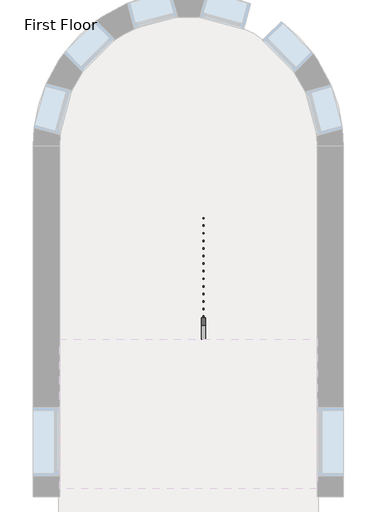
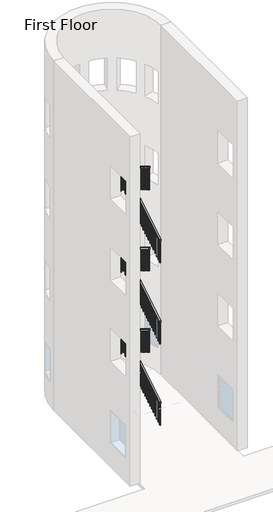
# One storey, part 4 of 5: 1 railing.
"""IFC4 building model written with IfcOpenShell, lengths in millimetres."""

from ifc_helpers import new_model, si_unit, frame, origin, place, context, project, spatial, polyline, outline, extrude, element, save

model = new_model("IFC4")

# Units and contexts
model_context = context("Model", 3, world=origin())
ifc_project = project(units=[si_unit("LENGTHUNIT", "METRE", prefix="MILLI")], contexts=[model_context])

# Site, building, storey
site = spatial("IfcSite", under=ifc_project)
building = spatial("IfcBuilding", under=site)
storey = spatial("IfcBuildingStorey", under=building, Name="First Floor", Elevation=0.0)

# Railing
placement = place(None, origin())
element("IfcRailing", 1, ObjectType="Handrail - Rectangular", at=placement, inside=storey, context=model_context, shape_type="SweptSolid", body=[
    extrude(outline(polyline([(7001.9758812, 7120.3318731), (7001.9758812, 7179.7333333), (9186.3758812, 8503.6121212), (9186.3758812, 8444.210661), (7001.9758812, 7120.3318731)])), frame((-6067.8149687, 0.0, 0.0), z_axis=(1.0, 0.0, 0.0), x_axis=(0.0, 1.0, 0.0)), (0.0, 0.0, 1.0), 50.8),
    extrude(outline(polyline([(-6017.0149687, 9237.1758812), (-6017.0149687, 9186.3758812), (-6409.1274687, 9186.3758812), (-6409.1274687, 9237.1758812), (-6017.0149687, 9237.1758812)])), frame((0.0, 0.0, 8483.6), z_axis=(0.0, 0.0, 1.0), x_axis=(1.0, 0.0, 0.0)), (0.0, 0.0, 1.0), 50.8),
    extrude(outline(polyline([(9237.1758812, 8703.7333333), (9237.1758812, 8644.3318731), (7001.9758812, 9998.9985397), (7001.9758812, 10058.4), (9237.1758812, 8703.7333333)])), frame((-6459.9274687, 0.0, 0.0), z_axis=(1.0, 0.0, 0.0), x_axis=(0.0, 1.0, 0.0)), (0.0, 0.0, 1.0), 50.8),
    extrude(outline(polyline([(7087.7008812, 9947.0439943), (7087.7008812, 9134.8266332), (7068.6508812, 9146.3720877), (7068.6508812, 9958.5894488), (7087.7008812, 9947.0439943)])), frame((-6444.0524687, 0.0, 0.0), z_axis=(1.0, 0.0, 0.0), x_axis=(0.0, 1.0, 0.0)), (0.0, 0.0, 1.0), 19.05),
    extrude(outline(polyline([(7189.3008812, 9885.4682367), (7189.3008812, 9073.2508756), (7170.2508812, 9084.7963301), (7170.2508812, 9897.0136913), (7189.3008812, 9885.4682367)])), frame((-6444.0524687, 0.0, 0.0), z_axis=(1.0, 0.0, 0.0), x_axis=(0.0, 1.0, 0.0)), (0.0, 0.0, 1.0), 19.05),
    extrude(outline(polyline([(7290.9008812, 9823.8924791), (7290.9008812, 9011.675118), (7271.8508812, 9023.2205726), (7271.8508812, 9835.4379337), (7290.9008812, 9823.8924791)])), frame((-6444.0524687, 0.0, 0.0), z_axis=(1.0, 0.0, 0.0), x_axis=(0.0, 1.0, 0.0)), (0.0, 0.0, 1.0), 19.05),
    extrude(outline(polyline([(7392.5008812, 9762.3167216), (7392.5008812, 8950.0993604), (7373.4508812, 8961.644815), (7373.4508812, 9773.8621761), (7392.5008812, 9762.3167216)])), frame((-6444.0524687, 0.0, 0.0), z_axis=(1.0, 0.0, 0.0), x_axis=(0.0, 1.0, 0.0)), (0.0, 0.0, 1.0), 19.05),
    extrude(outline(polyline([(7494.1008812, 9700.740964), (7494.1008812, 8888.5236029), (7475.0508812, 8900.0690574), (7475.0508812, 9712.2864185), (7494.1008812, 9700.740964)])), frame((-6444.0524687, 0.0, 0.0), z_axis=(1.0, 0.0, 0.0), x_axis=(0.0, 1.0, 0.0)), (0.0, 0.0, 1.0), 19.05),
    extrude(outline(polyline([(7595.7008812, 9639.1652064), (7595.7008812, 8826.9478453), (7576.6508812, 8838.4932998), (7576.6508812, 9650.710661), (7595.7008812, 9639.1652064)])), frame((-6444.0524687, 0.0, 0.0), z_axis=(1.0, 0.0, 0.0), x_axis=(0.0, 1.0, 0.0)), (0.0, 0.0, 1.0), 19.05),
    extrude(outline(polyline([(7697.3008812, 9577.5894488), (7697.3008812, 8765.3720877), (7678.2508812, 8776.9175423), (7678.2508812, 9589.1349034), (7697.3008812, 9577.5894488)])), frame((-6444.0524687, 0.0, 0.0), z_axis=(1.0, 0.0, 0.0), x_axis=(0.0, 1.0, 0.0)), (0.0, 0.0, 1.0), 19.05),
    extrude(outline(polyline([(7798.9008812, 9516.0136913), (7798.9008812, 8703.7963301), (7779.8508812, 8715.3417847), (7779.8508812, 9527.5591458), (7798.9008812, 9516.0136913)])), frame((-6444.0524687, 0.0, 0.0), z_axis=(1.0, 0.0, 0.0), x_axis=(0.0, 1.0, 0.0)), (0.0, 0.0, 1.0), 19.05),
    extrude(outline(polyline([(7900.5008812, 9454.4379337), (7900.5008812, 8642.2205726), (7881.4508812, 8653.7660271), (7881.4508812, 9465.9833882), (7900.5008812, 9454.4379337)])), frame((-6444.0524687, 0.0, 0.0), z_axis=(1.0, 0.0, 0.0), x_axis=(0.0, 1.0, 0.0)), (0.0, 0.0, 1.0), 19.05),
    extrude(outline(polyline([(8002.1008812, 9392.8621761), (8002.1008812, 8580.644815), (7983.0508812, 8592.1902695), (7983.0508812, 9404.4076307), (8002.1008812, 9392.8621761)])), frame((-6444.0524687, 0.0, 0.0), z_axis=(1.0, 0.0, 0.0), x_axis=(0.0, 1.0, 0.0)), (0.0, 0.0, 1.0), 19.05),
    extrude(outline(polyline([(8103.7008812, 9331.2864185), (8103.7008812, 8519.0690574), (8084.6508812, 8530.614512), (8084.6508812, 9342.8318731), (8103.7008812, 9331.2864185)])), frame((-6444.0524687, 0.0, 0.0), z_axis=(1.0, 0.0, 0.0), x_axis=(0.0, 1.0, 0.0)), (0.0, 0.0, 1.0), 19.05),
    extrude(outline(polyline([(8205.3008812, 9269.710661), (8205.3008812, 8457.4932998), (8186.2508812, 8469.0387544), (8186.2508812, 9281.2561155), (8205.3008812, 9269.710661)])), frame((-6444.0524687, 0.0, 0.0), z_axis=(1.0, 0.0, 0.0), x_axis=(0.0, 1.0, 0.0)), (0.0, 0.0, 1.0), 19.05),
    extrude(outline(polyline([(8306.9008812, 9208.1349034), (8306.9008812, 8395.9175423), (8287.8508812, 8407.4629968), (8287.8508812, 9219.6803579), (8306.9008812, 9208.1349034)])), frame((-6444.0524687, 0.0, 0.0), z_axis=(1.0, 0.0, 0.0), x_axis=(0.0, 1.0, 0.0)), (0.0, 0.0, 1.0), 19.05),
    extrude(outline(polyline([(8408.5008812, 9146.5591458), (8408.5008812, 8334.3417847), (8389.4508812, 8345.8872392), (8389.4508812, 9158.1046004), (8408.5008812, 9146.5591458)])), frame((-6444.0524687, 0.0, 0.0), z_axis=(1.0, 0.0, 0.0), x_axis=(0.0, 1.0, 0.0)), (0.0, 0.0, 1.0), 19.05),
    extrude(outline(polyline([(8510.1008812, 9084.9833882), (8510.1008812, 8272.7660271), (8491.0508812, 8284.3114817), (8491.0508812, 9096.5288428), (8510.1008812, 9084.9833882)])), frame((-6444.0524687, 0.0, 0.0), z_axis=(1.0, 0.0, 0.0), x_axis=(0.0, 1.0, 0.0)), (0.0, 0.0, 1.0), 19.05),
    extrude(outline(polyline([(8611.7008812, 9023.4076307), (8611.7008812, 8211.1902695), (8592.6508812, 8222.7357241), (8592.6508812, 9034.9530852), (8611.7008812, 9023.4076307)])), frame((-6444.0524687, 0.0, 0.0), z_axis=(1.0, 0.0, 0.0), x_axis=(0.0, 1.0, 0.0)), (0.0, 0.0, 1.0), 19.05),
    extrude(outline(polyline([(8713.3008812, 8961.8318731), (8713.3008812, 8149.614512), (8694.2508812, 8161.1599665), (8694.2508812, 8973.3773276), (8713.3008812, 8961.8318731)])), frame((-6444.0524687, 0.0, 0.0), z_axis=(1.0, 0.0, 0.0), x_axis=(0.0, 1.0, 0.0)), (0.0, 0.0, 1.0), 19.05),
    extrude(outline(polyline([(8814.9008812, 8900.2561155), (8814.9008812, 8088.0387544), (8795.8508812, 8099.5842089), (8795.8508812, 8911.80157), (8814.9008812, 8900.2561155)])), frame((-6444.0524687, 0.0, 0.0), z_axis=(1.0, 0.0, 0.0), x_axis=(0.0, 1.0, 0.0)), (0.0, 0.0, 1.0), 19.05),
    extrude(outline(polyline([(8916.5008812, 8838.6803579), (8916.5008812, 8026.4629968), (8897.4508812, 8038.0084514), (8897.4508812, 8850.2258125), (8916.5008812, 8838.6803579)])), frame((-6444.0524687, 0.0, 0.0), z_axis=(1.0, 0.0, 0.0), x_axis=(0.0, 1.0, 0.0)), (0.0, 0.0, 1.0), 19.05),
    extrude(outline(polyline([(9018.1008812, 8777.1046004), (9018.1008812, 7964.8872392), (8999.0508812, 7976.4326938), (8999.0508812, 8788.6500549), (9018.1008812, 8777.1046004)])), frame((-6444.0524687, 0.0, 0.0), z_axis=(1.0, 0.0, 0.0), x_axis=(0.0, 1.0, 0.0)), (0.0, 0.0, 1.0), 19.05),
    extrude(outline(polyline([(9119.7008812, 8715.5288428), (9119.7008812, 7903.3114817), (9100.6508812, 7914.8569362), (9100.6508812, 8727.0742973), (9119.7008812, 8715.5288428)])), frame((-6444.0524687, 0.0, 0.0), z_axis=(1.0, 0.0, 0.0), x_axis=(0.0, 1.0, 0.0)), (0.0, 0.0, 1.0), 19.05),
    extrude(outline(polyline([(-6337.6899687, 9202.2508812), (-6356.7399687, 9202.2508812), (-6356.7399687, 9221.3008812), (-6337.6899687, 9221.3008812), (-6337.6899687, 9202.2508812)])), frame((0.0, 0.0, 7696.2), z_axis=(0.0, 0.0, 1.0), x_axis=(1.0, 0.0, 0.0)), (0.0, 0.0, 1.0), 787.4),
    extrude(outline(polyline([(-6236.0899687, 9202.2508812), (-6255.1399687, 9202.2508812), (-6255.1399687, 9221.3008812), (-6236.0899687, 9221.3008812), (-6236.0899687, 9202.2508812)])), frame((0.0, 0.0, 7696.2), z_axis=(0.0, 0.0, 1.0), x_axis=(1.0, 0.0, 0.0)), (0.0, 0.0, 1.0), 787.4),
    extrude(outline(polyline([(-6134.4899687, 9202.2508812), (-6153.5399687, 9202.2508812), (-6153.5399687, 9221.3008812), (-6134.4899687, 9221.3008812), (-6134.4899687, 9202.2508812)])), frame((0.0, 0.0, 7696.2), z_axis=(0.0, 0.0, 1.0), x_axis=(1.0, 0.0, 0.0)), (0.0, 0.0, 1.0), 787.4),
    extrude(outline(polyline([(9145.1008812, 8419.1955094), (9145.1008812, 7606.9781483), (9126.0508812, 7595.4326938), (9126.0508812, 8407.6500549), (9145.1008812, 8419.1955094)])), frame((-6051.9399687, 0.0, 0.0), z_axis=(1.0, 0.0, 0.0), x_axis=(0.0, 1.0, 0.0)), (0.0, 0.0, 1.0), 19.05),
    extrude(outline(polyline([(9043.5008812, 8357.6197519), (9043.5008812, 7545.4023907), (9024.4508812, 7533.8569362), (9024.4508812, 8346.0742973), (9043.5008812, 8357.6197519)])), frame((-6051.9399687, 0.0, 0.0), z_axis=(1.0, 0.0, 0.0), x_axis=(0.0, 1.0, 0.0)), (0.0, 0.0, 1.0), 19.05),
    extrude(outline(polyline([(8941.9008812, 8296.0439943), (8941.9008812, 7483.8266332), (8922.8508812, 7472.2811786), (8922.8508812, 8284.4985397), (8941.9008812, 8296.0439943)])), frame((-6051.9399687, 0.0, 0.0), z_axis=(1.0, 0.0, 0.0), x_axis=(0.0, 1.0, 0.0)), (0.0, 0.0, 1.0), 19.05),
    extrude(outline(polyline([(8840.3008812, 8234.4682367), (8840.3008812, 7422.2508756), (8821.2508812, 7410.7054211), (8821.2508812, 8222.9227822), (8840.3008812, 8234.4682367)])), frame((-6051.9399687, 0.0, 0.0), z_axis=(1.0, 0.0, 0.0), x_axis=(0.0, 1.0, 0.0)), (0.0, 0.0, 1.0), 19.05),
    extrude(outline(polyline([(8738.7008812, 8172.8924791), (8738.7008812, 7360.675118), (8719.6508812, 7349.1296635), (8719.6508812, 8161.3470246), (8738.7008812, 8172.8924791)])), frame((-6051.9399687, 0.0, 0.0), z_axis=(1.0, 0.0, 0.0), x_axis=(0.0, 1.0, 0.0)), (0.0, 0.0, 1.0), 19.05),
    extrude(outline(polyline([(8637.1008812, 8111.3167216), (8637.1008812, 7299.0993604), (8618.0508812, 7287.5539059), (8618.0508812, 8099.771267), (8637.1008812, 8111.3167216)])), frame((-6051.9399687, 0.0, 0.0), z_axis=(1.0, 0.0, 0.0), x_axis=(0.0, 1.0, 0.0)), (0.0, 0.0, 1.0), 19.05),
    extrude(outline(polyline([(8535.5008812, 8049.740964), (8535.5008812, 7237.5236029), (8516.4508812, 7225.9781483), (8516.4508812, 8038.1955094), (8535.5008812, 8049.740964)])), frame((-6051.9399687, 0.0, 0.0), z_axis=(1.0, 0.0, 0.0), x_axis=(0.0, 1.0, 0.0)), (0.0, 0.0, 1.0), 19.05),
    extrude(outline(polyline([(8433.9008812, 7988.1652064), (8433.9008812, 7175.9478453), (8414.8508812, 7164.4023907), (8414.8508812, 7976.6197519), (8433.9008812, 7988.1652064)])), frame((-6051.9399687, 0.0, 0.0), z_axis=(1.0, 0.0, 0.0), x_axis=(0.0, 1.0, 0.0)), (0.0, 0.0, 1.0), 19.05),
    extrude(outline(polyline([(8332.3008812, 7926.5894488), (8332.3008812, 7114.3720877), (8313.2508812, 7102.8266332), (8313.2508812, 7915.0439943), (8332.3008812, 7926.5894488)])), frame((-6051.9399687, 0.0, 0.0), z_axis=(1.0, 0.0, 0.0), x_axis=(0.0, 1.0, 0.0)), (0.0, 0.0, 1.0), 19.05),
    extrude(outline(polyline([(8230.7008812, 7865.0136913), (8230.7008812, 7052.7963301), (8211.6508812, 7041.2508756), (8211.6508812, 7853.4682367), (8230.7008812, 7865.0136913)])), frame((-6051.9399687, 0.0, 0.0), z_axis=(1.0, 0.0, 0.0), x_axis=(0.0, 1.0, 0.0)), (0.0, 0.0, 1.0), 19.05),
    extrude(outline(polyline([(8129.1008812, 7803.4379337), (8129.1008812, 6991.2205726), (8110.0508812, 6979.675118), (8110.0508812, 7791.8924791), (8129.1008812, 7803.4379337)])), frame((-6051.9399687, 0.0, 0.0), z_axis=(1.0, 0.0, 0.0), x_axis=(0.0, 1.0, 0.0)), (0.0, 0.0, 1.0), 19.05),
    extrude(outline(polyline([(8027.5008812, 7741.8621761), (8027.5008812, 6929.644815), (8008.4508812, 6918.0993604), (8008.4508812, 7730.3167216), (8027.5008812, 7741.8621761)])), frame((-6051.9399687, 0.0, 0.0), z_axis=(1.0, 0.0, 0.0), x_axis=(0.0, 1.0, 0.0)), (0.0, 0.0, 1.0), 19.05),
    extrude(outline(polyline([(7925.9008812, 7680.2864185), (7925.9008812, 6868.0690574), (7906.8508812, 6856.5236029), (7906.8508812, 7668.740964), (7925.9008812, 7680.2864185)])), frame((-6051.9399687, 0.0, 0.0), z_axis=(1.0, 0.0, 0.0), x_axis=(0.0, 1.0, 0.0)), (0.0, 0.0, 1.0), 19.05),
    extrude(outline(polyline([(7824.3008812, 7618.710661), (7824.3008812, 6806.4932998), (7805.2508812, 6794.9478453), (7805.2508812, 7607.1652064), (7824.3008812, 7618.710661)])), frame((-6051.9399687, 0.0, 0.0), z_axis=(1.0, 0.0, 0.0), x_axis=(0.0, 1.0, 0.0)), (0.0, 0.0, 1.0), 19.05),
    extrude(outline(polyline([(7722.7008812, 7557.1349034), (7722.7008812, 6744.9175423), (7703.6508812, 6733.3720877), (7703.6508812, 7545.5894488), (7722.7008812, 7557.1349034)])), frame((-6051.9399687, 0.0, 0.0), z_axis=(1.0, 0.0, 0.0), x_axis=(0.0, 1.0, 0.0)), (0.0, 0.0, 1.0), 19.05),
    extrude(outline(polyline([(7621.1008812, 7495.5591458), (7621.1008812, 6683.3417847), (7602.0508812, 6671.7963301), (7602.0508812, 7484.0136913), (7621.1008812, 7495.5591458)])), frame((-6051.9399687, 0.0, 0.0), z_axis=(1.0, 0.0, 0.0), x_axis=(0.0, 1.0, 0.0)), (0.0, 0.0, 1.0), 19.05),
    extrude(outline(polyline([(7519.5008812, 7433.9833882), (7519.5008812, 6621.7660271), (7500.4508812, 6610.2205726), (7500.4508812, 7422.4379337), (7519.5008812, 7433.9833882)])), frame((-6051.9399687, 0.0, 0.0), z_axis=(1.0, 0.0, 0.0), x_axis=(0.0, 1.0, 0.0)), (0.0, 0.0, 1.0), 19.05),
    extrude(outline(polyline([(7417.9008812, 7372.4076307), (7417.9008812, 6560.1902695), (7398.8508812, 6548.644815), (7398.8508812, 7360.8621761), (7417.9008812, 7372.4076307)])), frame((-6051.9399687, 0.0, 0.0), z_axis=(1.0, 0.0, 0.0), x_axis=(0.0, 1.0, 0.0)), (0.0, 0.0, 1.0), 19.05),
    extrude(outline(polyline([(7316.3008812, 7310.8318731), (7316.3008812, 6498.614512), (7297.2508812, 6487.0690574), (7297.2508812, 7299.2864185), (7316.3008812, 7310.8318731)])), frame((-6051.9399687, 0.0, 0.0), z_axis=(1.0, 0.0, 0.0), x_axis=(0.0, 1.0, 0.0)), (0.0, 0.0, 1.0), 19.05),
    extrude(outline(polyline([(7214.7008812, 7249.2561155), (7214.7008812, 6437.0387544), (7195.6508812, 6425.4932998), (7195.6508812, 7237.710661), (7214.7008812, 7249.2561155)])), frame((-6051.9399687, 0.0, 0.0), z_axis=(1.0, 0.0, 0.0), x_axis=(0.0, 1.0, 0.0)), (0.0, 0.0, 1.0), 19.05),
    extrude(outline(polyline([(7113.1008812, 7187.6803579), (7113.1008812, 6375.4629968), (7094.0508812, 6363.9175423), (7094.0508812, 7176.1349034), (7113.1008812, 7187.6803579)])), frame((-6051.9399687, 0.0, 0.0), z_axis=(1.0, 0.0, 0.0), x_axis=(0.0, 1.0, 0.0)), (0.0, 0.0, 1.0), 19.05),
    extrude(outline(polyline([(9221.3008812, 8653.9530852), (9221.3008812, 7841.7357241), (9202.2508812, 7853.2811786), (9202.2508812, 8665.4985397), (9221.3008812, 8653.9530852)])), frame((-6444.0524687, 0.0, 0.0), z_axis=(1.0, 0.0, 0.0), x_axis=(0.0, 1.0, 0.0)), (0.0, 0.0, 1.0), 19.05),
    extrude(outline(polyline([(-6032.8899687, 9202.2508812), (-6051.9399687, 9202.2508812), (-6051.9399687, 9221.3008812), (-6032.8899687, 9221.3008812), (-6032.8899687, 9202.2508812)])), frame((0.0, 0.0, 7696.2), z_axis=(0.0, 0.0, 1.0), x_axis=(1.0, 0.0, 0.0)), (0.0, 0.0, 1.0), 787.4),
    extrude(outline(polyline([(7021.0258812, 9987.4530852), (7021.0258812, 9175.2357241), (7001.9758812, 9186.7811786), (7001.9758812, 9998.9985397), (7021.0258812, 9987.4530852)])), frame((-6444.0524687, 0.0, 0.0), z_axis=(1.0, 0.0, 0.0), x_axis=(0.0, 1.0, 0.0)), (0.0, 0.0, 1.0), 19.05),
    extrude(outline(polyline([(7021.0258812, 7131.8773276), (7021.0258812, 6319.6599665), (7001.9758812, 6308.114512), (7001.9758812, 7120.3318731), (7021.0258812, 7131.8773276)])), frame((-6051.9399687, 0.0, 0.0), z_axis=(1.0, 0.0, 0.0), x_axis=(0.0, 1.0, 0.0)), (0.0, 0.0, 1.0), 19.05),
    extrude(outline(polyline([(7001.9758812, 4072.3318731), (7001.9758812, 4131.7333333), (9186.3758812, 5455.6121212), (9186.3758812, 5396.210661), (7001.9758812, 4072.3318731)])), frame((-6067.8149687, 0.0, 0.0), z_axis=(1.0, 0.0, 0.0), x_axis=(0.0, 1.0, 0.0)), (0.0, 0.0, 1.0), 50.8),
    extrude(outline(polyline([(-6017.0149687, 9237.1758812), (-6017.0149687, 9186.3758812), (-6409.1274687, 9186.3758812), (-6409.1274687, 9237.1758812), (-6017.0149687, 9237.1758812)])), frame((0.0, 0.0, 5435.6), z_axis=(0.0, 0.0, 1.0), x_axis=(1.0, 0.0, 0.0)), (0.0, 0.0, 1.0), 50.8),
    extrude(outline(polyline([(9237.1758812, 5655.7333333), (9237.1758812, 5596.3318731), (7001.9758812, 6950.9985397), (7001.9758812, 7010.4), (9237.1758812, 5655.7333333)])), frame((-6459.9274687, 0.0, 0.0), z_axis=(1.0, 0.0, 0.0), x_axis=(0.0, 1.0, 0.0)), (0.0, 0.0, 1.0), 50.8),
    extrude(outline(polyline([(7087.7008812, 6899.0439943), (7087.7008812, 6086.8266332), (7068.6508812, 6098.3720877), (7068.6508812, 6910.5894488), (7087.7008812, 6899.0439943)])), frame((-6444.0524687, 0.0, 0.0), z_axis=(1.0, 0.0, 0.0), x_axis=(0.0, 1.0, 0.0)), (0.0, 0.0, 1.0), 19.05),
    extrude(outline(polyline([(7189.3008812, 6837.4682367), (7189.3008812, 6025.2508756), (7170.2508812, 6036.7963301), (7170.2508812, 6849.0136913), (7189.3008812, 6837.4682367)])), frame((-6444.0524687, 0.0, 0.0), z_axis=(1.0, 0.0, 0.0), x_axis=(0.0, 1.0, 0.0)), (0.0, 0.0, 1.0), 19.05),
    extrude(outline(polyline([(7290.9008812, 6775.8924791), (7290.9008812, 5963.675118), (7271.8508812, 5975.2205726), (7271.8508812, 6787.4379337), (7290.9008812, 6775.8924791)])), frame((-6444.0524687, 0.0, 0.0), z_axis=(1.0, 0.0, 0.0), x_axis=(0.0, 1.0, 0.0)), (0.0, 0.0, 1.0), 19.05),
    extrude(outline(polyline([(7392.5008812, 6714.3167216), (7392.5008812, 5902.0993604), (7373.4508812, 5913.644815), (7373.4508812, 6725.8621761), (7392.5008812, 6714.3167216)])), frame((-6444.0524687, 0.0, 0.0), z_axis=(1.0, 0.0, 0.0), x_axis=(0.0, 1.0, 0.0)), (0.0, 0.0, 1.0), 19.05),
    extrude(outline(polyline([(7494.1008812, 6652.740964), (7494.1008812, 5840.5236029), (7475.0508812, 5852.0690574), (7475.0508812, 6664.2864185), (7494.1008812, 6652.740964)])), frame((-6444.0524687, 0.0, 0.0), z_axis=(1.0, 0.0, 0.0), x_axis=(0.0, 1.0, 0.0)), (0.0, 0.0, 1.0), 19.05),
    extrude(outline(polyline([(7595.7008812, 6591.1652064), (7595.7008812, 5778.9478453), (7576.6508812, 5790.4932998), (7576.6508812, 6602.710661), (7595.7008812, 6591.1652064)])), frame((-6444.0524687, 0.0, 0.0), z_axis=(1.0, 0.0, 0.0), x_axis=(0.0, 1.0, 0.0)), (0.0, 0.0, 1.0), 19.05),
    extrude(outline(polyline([(7697.3008812, 6529.5894488), (7697.3008812, 5717.3720877), (7678.2508812, 5728.9175423), (7678.2508812, 6541.1349034), (7697.3008812, 6529.5894488)])), frame((-6444.0524687, 0.0, 0.0), z_axis=(1.0, 0.0, 0.0), x_axis=(0.0, 1.0, 0.0)), (0.0, 0.0, 1.0), 19.05),
    extrude(outline(polyline([(7798.9008812, 6468.0136913), (7798.9008812, 5655.7963301), (7779.8508812, 5667.3417847), (7779.8508812, 6479.5591458), (7798.9008812, 6468.0136913)])), frame((-6444.0524687, 0.0, 0.0), z_axis=(1.0, 0.0, 0.0), x_axis=(0.0, 1.0, 0.0)), (0.0, 0.0, 1.0), 19.05),
    extrude(outline(polyline([(7900.5008812, 6406.4379337), (7900.5008812, 5594.2205726), (7881.4508812, 5605.7660271), (7881.4508812, 6417.9833882), (7900.5008812, 6406.4379337)])), frame((-6444.0524687, 0.0, 0.0), z_axis=(1.0, 0.0, 0.0), x_axis=(0.0, 1.0, 0.0)), (0.0, 0.0, 1.0), 19.05),
    extrude(outline(polyline([(8002.1008812, 6344.8621761), (8002.1008812, 5532.644815), (7983.0508812, 5544.1902695), (7983.0508812, 6356.4076307), (8002.1008812, 6344.8621761)])), frame((-6444.0524687, 0.0, 0.0), z_axis=(1.0, 0.0, 0.0), x_axis=(0.0, 1.0, 0.0)), (0.0, 0.0, 1.0), 19.05),
    extrude(outline(polyline([(8103.7008812, 6283.2864185), (8103.7008812, 5471.0690574), (8084.6508812, 5482.614512), (8084.6508812, 6294.8318731), (8103.7008812, 6283.2864185)])), frame((-6444.0524687, 0.0, 0.0), z_axis=(1.0, 0.0, 0.0), x_axis=(0.0, 1.0, 0.0)), (0.0, 0.0, 1.0), 19.05),
    extrude(outline(polyline([(8205.3008812, 6221.710661), (8205.3008812, 5409.4932998), (8186.2508812, 5421.0387544), (8186.2508812, 6233.2561155), (8205.3008812, 6221.710661)])), frame((-6444.0524687, 0.0, 0.0), z_axis=(1.0, 0.0, 0.0), x_axis=(0.0, 1.0, 0.0)), (0.0, 0.0, 1.0), 19.05),
    extrude(outline(polyline([(8306.9008812, 6160.1349034), (8306.9008812, 5347.9175423), (8287.8508812, 5359.4629968), (8287.8508812, 6171.6803579), (8306.9008812, 6160.1349034)])), frame((-6444.0524687, 0.0, 0.0), z_axis=(1.0, 0.0, 0.0), x_axis=(0.0, 1.0, 0.0)), (0.0, 0.0, 1.0), 19.05),
    extrude(outline(polyline([(8408.5008812, 6098.5591458), (8408.5008812, 5286.3417847), (8389.4508812, 5297.8872392), (8389.4508812, 6110.1046004), (8408.5008812, 6098.5591458)])), frame((-6444.0524687, 0.0, 0.0), z_axis=(1.0, 0.0, 0.0), x_axis=(0.0, 1.0, 0.0)), (0.0, 0.0, 1.0), 19.05),
    extrude(outline(polyline([(8510.1008812, 6036.9833882), (8510.1008812, 5224.7660271), (8491.0508812, 5236.3114817), (8491.0508812, 6048.5288428), (8510.1008812, 6036.9833882)])), frame((-6444.0524687, 0.0, 0.0), z_axis=(1.0, 0.0, 0.0), x_axis=(0.0, 1.0, 0.0)), (0.0, 0.0, 1.0), 19.05),
    extrude(outline(polyline([(8611.7008812, 5975.4076307), (8611.7008812, 5163.1902695), (8592.6508812, 5174.7357241), (8592.6508812, 5986.9530852), (8611.7008812, 5975.4076307)])), frame((-6444.0524687, 0.0, 0.0), z_axis=(1.0, 0.0, 0.0), x_axis=(0.0, 1.0, 0.0)), (0.0, 0.0, 1.0), 19.05),
    extrude(outline(polyline([(8713.3008812, 5913.8318731), (8713.3008812, 5101.614512), (8694.2508812, 5113.1599665), (8694.2508812, 5925.3773276), (8713.3008812, 5913.8318731)])), frame((-6444.0524687, 0.0, 0.0), z_axis=(1.0, 0.0, 0.0), x_axis=(0.0, 1.0, 0.0)), (0.0, 0.0, 1.0), 19.05),
    extrude(outline(polyline([(8814.9008812, 5852.2561155), (8814.9008812, 5040.0387544), (8795.8508812, 5051.5842089), (8795.8508812, 5863.80157), (8814.9008812, 5852.2561155)])), frame((-6444.0524687, 0.0, 0.0), z_axis=(1.0, 0.0, 0.0), x_axis=(0.0, 1.0, 0.0)), (0.0, 0.0, 1.0), 19.05),
    extrude(outline(polyline([(8916.5008812, 5790.6803579), (8916.5008812, 4978.4629968), (8897.4508812, 4990.0084514), (8897.4508812, 5802.2258125), (8916.5008812, 5790.6803579)])), frame((-6444.0524687, 0.0, 0.0), z_axis=(1.0, 0.0, 0.0), x_axis=(0.0, 1.0, 0.0)), (0.0, 0.0, 1.0), 19.05),
    extrude(outline(polyline([(9018.1008812, 5729.1046004), (9018.1008812, 4916.8872392), (8999.0508812, 4928.4326938), (8999.0508812, 5740.6500549), (9018.1008812, 5729.1046004)])), frame((-6444.0524687, 0.0, 0.0), z_axis=(1.0, 0.0, 0.0), x_axis=(0.0, 1.0, 0.0)), (0.0, 0.0, 1.0), 19.05),
    extrude(outline(polyline([(9119.7008812, 5667.5288428), (9119.7008812, 4855.3114817), (9100.6508812, 4866.8569362), (9100.6508812, 5679.0742973), (9119.7008812, 5667.5288428)])), frame((-6444.0524687, 0.0, 0.0), z_axis=(1.0, 0.0, 0.0), x_axis=(0.0, 1.0, 0.0)), (0.0, 0.0, 1.0), 19.05),
    extrude(outline(polyline([(-6337.6899687, 9202.2508812), (-6356.7399687, 9202.2508812), (-6356.7399687, 9221.3008812), (-6337.6899687, 9221.3008812), (-6337.6899687, 9202.2508812)])), frame((0.0, 0.0, 4648.2), z_axis=(0.0, 0.0, 1.0), x_axis=(1.0, 0.0, 0.0)), (0.0, 0.0, 1.0), 787.4),
    extrude(outline(polyline([(-6236.0899687, 9202.2508812), (-6255.1399687, 9202.2508812), (-6255.1399687, 9221.3008812), (-6236.0899687, 9221.3008812), (-6236.0899687, 9202.2508812)])), frame((0.0, 0.0, 4648.2), z_axis=(0.0, 0.0, 1.0), x_axis=(1.0, 0.0, 0.0)), (0.0, 0.0, 1.0), 787.4),
    extrude(outline(polyline([(-6134.4899687, 9202.2508812), (-6153.5399687, 9202.2508812), (-6153.5399687, 9221.3008812), (-6134.4899687, 9221.3008812), (-6134.4899687, 9202.2508812)])), frame((0.0, 0.0, 4648.2), z_axis=(0.0, 0.0, 1.0), x_axis=(1.0, 0.0, 0.0)), (0.0, 0.0, 1.0), 787.4),
    extrude(outline(polyline([(9145.1008812, 5371.1955094), (9145.1008812, 4558.9781483), (9126.0508812, 4547.4326938), (9126.0508812, 5359.6500549), (9145.1008812, 5371.1955094)])), frame((-6051.9399687, 0.0, 0.0), z_axis=(1.0, 0.0, 0.0), x_axis=(0.0, 1.0, 0.0)), (0.0, 0.0, 1.0), 19.05),
    extrude(outline(polyline([(9043.5008812, 5309.6197519), (9043.5008812, 4497.4023907), (9024.4508812, 4485.8569362), (9024.4508812, 5298.0742973), (9043.5008812, 5309.6197519)])), frame((-6051.9399687, 0.0, 0.0), z_axis=(1.0, 0.0, 0.0), x_axis=(0.0, 1.0, 0.0)), (0.0, 0.0, 1.0), 19.05),
    extrude(outline(polyline([(8941.9008812, 5248.0439943), (8941.9008812, 4435.8266332), (8922.8508812, 4424.2811786), (8922.8508812, 5236.4985397), (8941.9008812, 5248.0439943)])), frame((-6051.9399687, 0.0, 0.0), z_axis=(1.0, 0.0, 0.0), x_axis=(0.0, 1.0, 0.0)), (0.0, 0.0, 1.0), 19.05),
    extrude(outline(polyline([(8840.3008812, 5186.4682367), (8840.3008812, 4374.2508756), (8821.2508812, 4362.7054211), (8821.2508812, 5174.9227822), (8840.3008812, 5186.4682367)])), frame((-6051.9399687, 0.0, 0.0), z_axis=(1.0, 0.0, 0.0), x_axis=(0.0, 1.0, 0.0)), (0.0, 0.0, 1.0), 19.05),
    extrude(outline(polyline([(8738.7008812, 5124.8924791), (8738.7008812, 4312.675118), (8719.6508812, 4301.1296635), (8719.6508812, 5113.3470246), (8738.7008812, 5124.8924791)])), frame((-6051.9399687, 0.0, 0.0), z_axis=(1.0, 0.0, 0.0), x_axis=(0.0, 1.0, 0.0)), (0.0, 0.0, 1.0), 19.05),
    extrude(outline(polyline([(8637.1008812, 5063.3167216), (8637.1008812, 4251.0993604), (8618.0508812, 4239.5539059), (8618.0508812, 5051.771267), (8637.1008812, 5063.3167216)])), frame((-6051.9399687, 0.0, 0.0), z_axis=(1.0, 0.0, 0.0), x_axis=(0.0, 1.0, 0.0)), (0.0, 0.0, 1.0), 19.05),
    extrude(outline(polyline([(8535.5008812, 5001.740964), (8535.5008812, 4189.5236029), (8516.4508812, 4177.9781483), (8516.4508812, 4990.1955094), (8535.5008812, 5001.740964)])), frame((-6051.9399687, 0.0, 0.0), z_axis=(1.0, 0.0, 0.0), x_axis=(0.0, 1.0, 0.0)), (0.0, 0.0, 1.0), 19.05),
    extrude(outline(polyline([(8433.9008812, 4940.1652064), (8433.9008812, 4127.9478453), (8414.8508812, 4116.4023907), (8414.8508812, 4928.6197519), (8433.9008812, 4940.1652064)])), frame((-6051.9399687, 0.0, 0.0), z_axis=(1.0, 0.0, 0.0), x_axis=(0.0, 1.0, 0.0)), (0.0, 0.0, 1.0), 19.05),
    extrude(outline(polyline([(8332.3008812, 4878.5894488), (8332.3008812, 4066.3720877), (8313.2508812, 4054.8266332), (8313.2508812, 4867.0439943), (8332.3008812, 4878.5894488)])), frame((-6051.9399687, 0.0, 0.0), z_axis=(1.0, 0.0, 0.0), x_axis=(0.0, 1.0, 0.0)), (0.0, 0.0, 1.0), 19.05),
    extrude(outline(polyline([(8230.7008812, 4817.0136913), (8230.7008812, 4004.7963301), (8211.6508812, 3993.2508756), (8211.6508812, 4805.4682367), (8230.7008812, 4817.0136913)])), frame((-6051.9399687, 0.0, 0.0), z_axis=(1.0, 0.0, 0.0), x_axis=(0.0, 1.0, 0.0)), (0.0, 0.0, 1.0), 19.05),
    extrude(outline(polyline([(8129.1008812, 4755.4379337), (8129.1008812, 3943.2205726), (8110.0508812, 3931.675118), (8110.0508812, 4743.8924791), (8129.1008812, 4755.4379337)])), frame((-6051.9399687, 0.0, 0.0), z_axis=(1.0, 0.0, 0.0), x_axis=(0.0, 1.0, 0.0)), (0.0, 0.0, 1.0), 19.05),
    extrude(outline(polyline([(8027.5008812, 4693.8621761), (8027.5008812, 3881.644815), (8008.4508812, 3870.0993604), (8008.4508812, 4682.3167216), (8027.5008812, 4693.8621761)])), frame((-6051.9399687, 0.0, 0.0), z_axis=(1.0, 0.0, 0.0), x_axis=(0.0, 1.0, 0.0)), (0.0, 0.0, 1.0), 19.05),
    extrude(outline(polyline([(7925.9008812, 4632.2864185), (7925.9008812, 3820.0690574), (7906.8508812, 3808.5236029), (7906.8508812, 4620.740964), (7925.9008812, 4632.2864185)])), frame((-6051.9399687, 0.0, 0.0), z_axis=(1.0, 0.0, 0.0), x_axis=(0.0, 1.0, 0.0)), (0.0, 0.0, 1.0), 19.05),
    extrude(outline(polyline([(7824.3008812, 4570.710661), (7824.3008812, 3758.4932998), (7805.2508812, 3746.9478453), (7805.2508812, 4559.1652064), (7824.3008812, 4570.710661)])), frame((-6051.9399687, 0.0, 0.0), z_axis=(1.0, 0.0, 0.0), x_axis=(0.0, 1.0, 0.0)), (0.0, 0.0, 1.0), 19.05),
    extrude(outline(polyline([(7722.7008812, 4509.1349034), (7722.7008812, 3696.9175423), (7703.6508812, 3685.3720877), (7703.6508812, 4497.5894488), (7722.7008812, 4509.1349034)])), frame((-6051.9399687, 0.0, 0.0), z_axis=(1.0, 0.0, 0.0), x_axis=(0.0, 1.0, 0.0)), (0.0, 0.0, 1.0), 19.05),
    extrude(outline(polyline([(7621.1008812, 4447.5591458), (7621.1008812, 3635.3417847), (7602.0508812, 3623.7963301), (7602.0508812, 4436.0136913), (7621.1008812, 4447.5591458)])), frame((-6051.9399687, 0.0, 0.0), z_axis=(1.0, 0.0, 0.0), x_axis=(0.0, 1.0, 0.0)), (0.0, 0.0, 1.0), 19.05),
    extrude(outline(polyline([(7519.5008812, 4385.9833882), (7519.5008812, 3573.7660271), (7500.4508812, 3562.2205726), (7500.4508812, 4374.4379337), (7519.5008812, 4385.9833882)])), frame((-6051.9399687, 0.0, 0.0), z_axis=(1.0, 0.0, 0.0), x_axis=(0.0, 1.0, 0.0)), (0.0, 0.0, 1.0), 19.05),
    extrude(outline(polyline([(7417.9008812, 4324.4076307), (7417.9008812, 3512.1902695), (7398.8508812, 3500.644815), (7398.8508812, 4312.8621761), (7417.9008812, 4324.4076307)])), frame((-6051.9399687, 0.0, 0.0), z_axis=(1.0, 0.0, 0.0), x_axis=(0.0, 1.0, 0.0)), (0.0, 0.0, 1.0), 19.05),
    extrude(outline(polyline([(7316.3008812, 4262.8318731), (7316.3008812, 3450.614512), (7297.2508812, 3439.0690574), (7297.2508812, 4251.2864185), (7316.3008812, 4262.8318731)])), frame((-6051.9399687, 0.0, 0.0), z_axis=(1.0, 0.0, 0.0), x_axis=(0.0, 1.0, 0.0)), (0.0, 0.0, 1.0), 19.05),
    extrude(outline(polyline([(7214.7008812, 4201.2561155), (7214.7008812, 3389.0387544), (7195.6508812, 3377.4932998), (7195.6508812, 4189.710661), (7214.7008812, 4201.2561155)])), frame((-6051.9399687, 0.0, 0.0), z_axis=(1.0, 0.0, 0.0), x_axis=(0.0, 1.0, 0.0)), (0.0, 0.0, 1.0), 19.05),
    extrude(outline(polyline([(7113.1008812, 4139.6803579), (7113.1008812, 3327.4629968), (7094.0508812, 3315.9175423), (7094.0508812, 4128.1349034), (7113.1008812, 4139.6803579)])), frame((-6051.9399687, 0.0, 0.0), z_axis=(1.0, 0.0, 0.0), x_axis=(0.0, 1.0, 0.0)), (0.0, 0.0, 1.0), 19.05),
    extrude(outline(polyline([(9221.3008812, 5605.9530852), (9221.3008812, 4793.7357241), (9202.2508812, 4805.2811786), (9202.2508812, 5617.4985397), (9221.3008812, 5605.9530852)])), frame((-6444.0524687, 0.0, 0.0), z_axis=(1.0, 0.0, 0.0), x_axis=(0.0, 1.0, 0.0)), (0.0, 0.0, 1.0), 19.05),
    extrude(outline(polyline([(-6032.8899687, 9202.2508812), (-6051.9399687, 9202.2508812), (-6051.9399687, 9221.3008812), (-6032.8899687, 9221.3008812), (-6032.8899687, 9202.2508812)])), frame((0.0, 0.0, 4648.2), z_axis=(0.0, 0.0, 1.0), x_axis=(1.0, 0.0, 0.0)), (0.0, 0.0, 1.0), 787.4),
    extrude(outline(polyline([(7021.0258812, 6939.4530852), (7021.0258812, 6127.2357241), (7001.9758812, 6138.7811786), (7001.9758812, 6950.9985397), (7021.0258812, 6939.4530852)])), frame((-6444.0524687, 0.0, 0.0), z_axis=(1.0, 0.0, 0.0), x_axis=(0.0, 1.0, 0.0)), (0.0, 0.0, 1.0), 19.05),
    extrude(outline(polyline([(7021.0258812, 4083.8773276), (7021.0258812, 3271.6599665), (7001.9758812, 3260.114512), (7001.9758812, 4072.3318731), (7021.0258812, 4083.8773276)])), frame((-6051.9399687, 0.0, 0.0), z_axis=(1.0, 0.0, 0.0), x_axis=(0.0, 1.0, 0.0)), (0.0, 0.0, 1.0), 19.05),
    extrude(outline(polyline([(7001.9758812, 1024.3318731), (7001.9758812, 1083.7333333), (9186.3758812, 2407.6121212), (9186.3758812, 2348.210661), (7001.9758812, 1024.3318731)])), frame((-6067.8149687, 0.0, 0.0), z_axis=(1.0, 0.0, 0.0), x_axis=(0.0, 1.0, 0.0)), (0.0, 0.0, 1.0), 50.8),
    extrude(outline(polyline([(-6017.0149687, 9237.1758812), (-6017.0149687, 9186.3758812), (-6409.1274687, 9186.3758812), (-6409.1274687, 9237.1758812), (-6017.0149687, 9237.1758812)])), frame((0.0, 0.0, 2387.6), z_axis=(0.0, 0.0, 1.0), x_axis=(1.0, 0.0, 0.0)), (0.0, 0.0, 1.0), 50.8),
    extrude(outline(polyline([(9237.1758812, 2607.7333333), (9237.1758812, 2548.3318731), (7001.9758812, 3902.9985397), (7001.9758812, 3962.4), (9237.1758812, 2607.7333333)])), frame((-6459.9274687, 0.0, 0.0), z_axis=(1.0, 0.0, 0.0), x_axis=(0.0, 1.0, 0.0)), (0.0, 0.0, 1.0), 50.8),
    extrude(outline(polyline([(7087.7008812, 3851.0439943), (7087.7008812, 3038.8266332), (7068.6508812, 3050.3720877), (7068.6508812, 3862.5894488), (7087.7008812, 3851.0439943)])), frame((-6444.0524687, 0.0, 0.0), z_axis=(1.0, 0.0, 0.0), x_axis=(0.0, 1.0, 0.0)), (0.0, 0.0, 1.0), 19.05),
    extrude(outline(polyline([(7189.3008812, 3789.4682367), (7189.3008812, 2977.2508756), (7170.2508812, 2988.7963301), (7170.2508812, 3801.0136913), (7189.3008812, 3789.4682367)])), frame((-6444.0524687, 0.0, 0.0), z_axis=(1.0, 0.0, 0.0), x_axis=(0.0, 1.0, 0.0)), (0.0, 0.0, 1.0), 19.05),
    extrude(outline(polyline([(7290.9008812, 3727.8924791), (7290.9008812, 2915.675118), (7271.8508812, 2927.2205726), (7271.8508812, 3739.4379337), (7290.9008812, 3727.8924791)])), frame((-6444.0524687, 0.0, 0.0), z_axis=(1.0, 0.0, 0.0), x_axis=(0.0, 1.0, 0.0)), (0.0, 0.0, 1.0), 19.05),
    extrude(outline(polyline([(7392.5008812, 3666.3167216), (7392.5008812, 2854.0993604), (7373.4508812, 2865.644815), (7373.4508812, 3677.8621761), (7392.5008812, 3666.3167216)])), frame((-6444.0524687, 0.0, 0.0), z_axis=(1.0, 0.0, 0.0), x_axis=(0.0, 1.0, 0.0)), (0.0, 0.0, 1.0), 19.05),
    extrude(outline(polyline([(7494.1008812, 3604.740964), (7494.1008812, 2792.5236029), (7475.0508812, 2804.0690574), (7475.0508812, 3616.2864185), (7494.1008812, 3604.740964)])), frame((-6444.0524687, 0.0, 0.0), z_axis=(1.0, 0.0, 0.0), x_axis=(0.0, 1.0, 0.0)), (0.0, 0.0, 1.0), 19.05),
    extrude(outline(polyline([(7595.7008812, 3543.1652064), (7595.7008812, 2730.9478453), (7576.6508812, 2742.4932998), (7576.6508812, 3554.710661), (7595.7008812, 3543.1652064)])), frame((-6444.0524687, 0.0, 0.0), z_axis=(1.0, 0.0, 0.0), x_axis=(0.0, 1.0, 0.0)), (0.0, 0.0, 1.0), 19.05),
    extrude(outline(polyline([(7697.3008812, 3481.5894488), (7697.3008812, 2669.3720877), (7678.2508812, 2680.9175423), (7678.2508812, 3493.1349034), (7697.3008812, 3481.5894488)])), frame((-6444.0524687, 0.0, 0.0), z_axis=(1.0, 0.0, 0.0), x_axis=(0.0, 1.0, 0.0)), (0.0, 0.0, 1.0), 19.05),
    extrude(outline(polyline([(7798.9008812, 3420.0136913), (7798.9008812, 2607.7963301), (7779.8508812, 2619.3417847), (7779.8508812, 3431.5591458), (7798.9008812, 3420.0136913)])), frame((-6444.0524687, 0.0, 0.0), z_axis=(1.0, 0.0, 0.0), x_axis=(0.0, 1.0, 0.0)), (0.0, 0.0, 1.0), 19.05),
    extrude(outline(polyline([(7900.5008812, 3358.4379337), (7900.5008812, 2546.2205726), (7881.4508812, 2557.7660271), (7881.4508812, 3369.9833882), (7900.5008812, 3358.4379337)])), frame((-6444.0524687, 0.0, 0.0), z_axis=(1.0, 0.0, 0.0), x_axis=(0.0, 1.0, 0.0)), (0.0, 0.0, 1.0), 19.05),
    extrude(outline(polyline([(8002.1008812, 3296.8621761), (8002.1008812, 2484.644815), (7983.0508812, 2496.1902695), (7983.0508812, 3308.4076307), (8002.1008812, 3296.8621761)])), frame((-6444.0524687, 0.0, 0.0), z_axis=(1.0, 0.0, 0.0), x_axis=(0.0, 1.0, 0.0)), (0.0, 0.0, 1.0), 19.05),
    extrude(outline(polyline([(8103.7008812, 3235.2864185), (8103.7008812, 2423.0690574), (8084.6508812, 2434.614512), (8084.6508812, 3246.8318731), (8103.7008812, 3235.2864185)])), frame((-6444.0524687, 0.0, 0.0), z_axis=(1.0, 0.0, 0.0), x_axis=(0.0, 1.0, 0.0)), (0.0, 0.0, 1.0), 19.05),
    extrude(outline(polyline([(8205.3008812, 3173.710661), (8205.3008812, 2361.4932998), (8186.2508812, 2373.0387544), (8186.2508812, 3185.2561155), (8205.3008812, 3173.710661)])), frame((-6444.0524687, 0.0, 0.0), z_axis=(1.0, 0.0, 0.0), x_axis=(0.0, 1.0, 0.0)), (0.0, 0.0, 1.0), 19.05),
    extrude(outline(polyline([(8306.9008812, 3112.1349034), (8306.9008812, 2299.9175423), (8287.8508812, 2311.4629968), (8287.8508812, 3123.6803579), (8306.9008812, 3112.1349034)])), frame((-6444.0524687, 0.0, 0.0), z_axis=(1.0, 0.0, 0.0), x_axis=(0.0, 1.0, 0.0)), (0.0, 0.0, 1.0), 19.05),
    extrude(outline(polyline([(8408.5008812, 3050.5591458), (8408.5008812, 2238.3417847), (8389.4508812, 2249.8872392), (8389.4508812, 3062.1046004), (8408.5008812, 3050.5591458)])), frame((-6444.0524687, 0.0, 0.0), z_axis=(1.0, 0.0, 0.0), x_axis=(0.0, 1.0, 0.0)), (0.0, 0.0, 1.0), 19.05),
    extrude(outline(polyline([(8510.1008812, 2988.9833882), (8510.1008812, 2176.7660271), (8491.0508812, 2188.3114817), (8491.0508812, 3000.5288428), (8510.1008812, 2988.9833882)])), frame((-6444.0524687, 0.0, 0.0), z_axis=(1.0, 0.0, 0.0), x_axis=(0.0, 1.0, 0.0)), (0.0, 0.0, 1.0), 19.05),
    extrude(outline(polyline([(8611.7008812, 2927.4076307), (8611.7008812, 2115.1902695), (8592.6508812, 2126.7357241), (8592.6508812, 2938.9530852), (8611.7008812, 2927.4076307)])), frame((-6444.0524687, 0.0, 0.0), z_axis=(1.0, 0.0, 0.0), x_axis=(0.0, 1.0, 0.0)), (0.0, 0.0, 1.0), 19.05),
    extrude(outline(polyline([(8713.3008812, 2865.8318731), (8713.3008812, 2053.614512), (8694.2508812, 2065.1599665), (8694.2508812, 2877.3773276), (8713.3008812, 2865.8318731)])), frame((-6444.0524687, 0.0, 0.0), z_axis=(1.0, 0.0, 0.0), x_axis=(0.0, 1.0, 0.0)), (0.0, 0.0, 1.0), 19.05),
    extrude(outline(polyline([(8814.9008812, 2804.2561155), (8814.9008812, 1992.0387544), (8795.8508812, 2003.5842089), (8795.8508812, 2815.80157), (8814.9008812, 2804.2561155)])), frame((-6444.0524687, 0.0, 0.0), z_axis=(1.0, 0.0, 0.0), x_axis=(0.0, 1.0, 0.0)), (0.0, 0.0, 1.0), 19.05),
    extrude(outline(polyline([(8916.5008812, 2742.6803579), (8916.5008812, 1930.4629968), (8897.4508812, 1942.0084514), (8897.4508812, 2754.2258125), (8916.5008812, 2742.6803579)])), frame((-6444.0524687, 0.0, 0.0), z_axis=(1.0, 0.0, 0.0), x_axis=(0.0, 1.0, 0.0)), (0.0, 0.0, 1.0), 19.05),
    extrude(outline(polyline([(9018.1008812, 2681.1046004), (9018.1008812, 1868.8872392), (8999.0508812, 1880.4326938), (8999.0508812, 2692.6500549), (9018.1008812, 2681.1046004)])), frame((-6444.0524687, 0.0, 0.0), z_axis=(1.0, 0.0, 0.0), x_axis=(0.0, 1.0, 0.0)), (0.0, 0.0, 1.0), 19.05),
    extrude(outline(polyline([(9119.7008812, 2619.5288428), (9119.7008812, 1807.3114817), (9100.6508812, 1818.8569362), (9100.6508812, 2631.0742973), (9119.7008812, 2619.5288428)])), frame((-6444.0524687, 0.0, 0.0), z_axis=(1.0, 0.0, 0.0), x_axis=(0.0, 1.0, 0.0)), (0.0, 0.0, 1.0), 19.05),
    extrude(outline(polyline([(-6337.6899687, 9202.2508812), (-6356.7399687, 9202.2508812), (-6356.7399687, 9221.3008812), (-6337.6899687, 9221.3008812), (-6337.6899687, 9202.2508812)])), frame((0.0, 0.0, 1600.2), z_axis=(0.0, 0.0, 1.0), x_axis=(1.0, 0.0, 0.0)), (0.0, 0.0, 1.0), 787.4),
    extrude(outline(polyline([(-6236.0899687, 9202.2508812), (-6255.1399687, 9202.2508812), (-6255.1399687, 9221.3008812), (-6236.0899687, 9221.3008812), (-6236.0899687, 9202.2508812)])), frame((0.0, 0.0, 1600.2), z_axis=(0.0, 0.0, 1.0), x_axis=(1.0, 0.0, 0.0)), (0.0, 0.0, 1.0), 787.4),
    extrude(outline(polyline([(-6134.4899687, 9202.2508812), (-6153.5399687, 9202.2508812), (-6153.5399687, 9221.3008812), (-6134.4899687, 9221.3008812), (-6134.4899687, 9202.2508812)])), frame((0.0, 0.0, 1600.2), z_axis=(0.0, 0.0, 1.0), x_axis=(1.0, 0.0, 0.0)), (0.0, 0.0, 1.0), 787.4),
    extrude(outline(polyline([(9145.1008812, 2323.1955094), (9145.1008812, 1510.9781483), (9126.0508812, 1499.4326938), (9126.0508812, 2311.6500549), (9145.1008812, 2323.1955094)])), frame((-6051.9399687, 0.0, 0.0), z_axis=(1.0, 0.0, 0.0), x_axis=(0.0, 1.0, 0.0)), (0.0, 0.0, 1.0), 19.05),
    extrude(outline(polyline([(9043.5008812, 2261.6197519), (9043.5008812, 1449.4023907), (9024.4508812, 1437.8569362), (9024.4508812, 2250.0742973), (9043.5008812, 2261.6197519)])), frame((-6051.9399687, 0.0, 0.0), z_axis=(1.0, 0.0, 0.0), x_axis=(0.0, 1.0, 0.0)), (0.0, 0.0, 1.0), 19.05),
    extrude(outline(polyline([(8941.9008812, 2200.0439943), (8941.9008812, 1387.8266332), (8922.8508812, 1376.2811786), (8922.8508812, 2188.4985397), (8941.9008812, 2200.0439943)])), frame((-6051.9399687, 0.0, 0.0), z_axis=(1.0, 0.0, 0.0), x_axis=(0.0, 1.0, 0.0)), (0.0, 0.0, 1.0), 19.05),
    extrude(outline(polyline([(8840.3008812, 2138.4682367), (8840.3008812, 1326.2508756), (8821.2508812, 1314.7054211), (8821.2508812, 2126.9227822), (8840.3008812, 2138.4682367)])), frame((-6051.9399687, 0.0, 0.0), z_axis=(1.0, 0.0, 0.0), x_axis=(0.0, 1.0, 0.0)), (0.0, 0.0, 1.0), 19.05),
    extrude(outline(polyline([(8738.7008812, 2076.8924791), (8738.7008812, 1264.675118), (8719.6508812, 1253.1296635), (8719.6508812, 2065.3470246), (8738.7008812, 2076.8924791)])), frame((-6051.9399687, 0.0, 0.0), z_axis=(1.0, 0.0, 0.0), x_axis=(0.0, 1.0, 0.0)), (0.0, 0.0, 1.0), 19.05),
    extrude(outline(polyline([(8637.1008812, 2015.3167216), (8637.1008812, 1203.0993604), (8618.0508812, 1191.5539059), (8618.0508812, 2003.771267), (8637.1008812, 2015.3167216)])), frame((-6051.9399687, 0.0, 0.0), z_axis=(1.0, 0.0, 0.0), x_axis=(0.0, 1.0, 0.0)), (0.0, 0.0, 1.0), 19.05),
    extrude(outline(polyline([(8535.5008812, 1953.740964), (8535.5008812, 1141.5236029), (8516.4508812, 1129.9781483), (8516.4508812, 1942.1955094), (8535.5008812, 1953.740964)])), frame((-6051.9399687, 0.0, 0.0), z_axis=(1.0, 0.0, 0.0), x_axis=(0.0, 1.0, 0.0)), (0.0, 0.0, 1.0), 19.05),
    extrude(outline(polyline([(8433.9008812, 1892.1652064), (8433.9008812, 1079.9478453), (8414.8508812, 1068.4023907), (8414.8508812, 1880.6197519), (8433.9008812, 1892.1652064)])), frame((-6051.9399687, 0.0, 0.0), z_axis=(1.0, 0.0, 0.0), x_axis=(0.0, 1.0, 0.0)), (0.0, 0.0, 1.0), 19.05),
    extrude(outline(polyline([(8332.3008812, 1830.5894488), (8332.3008812, 1018.3720877), (8313.2508812, 1006.8266332), (8313.2508812, 1819.0439943), (8332.3008812, 1830.5894488)])), frame((-6051.9399687, 0.0, 0.0), z_axis=(1.0, 0.0, 0.0), x_axis=(0.0, 1.0, 0.0)), (0.0, 0.0, 1.0), 19.05),
    extrude(outline(polyline([(8230.7008812, 1769.0136913), (8230.7008812, 956.7963301), (8211.6508812, 945.2508756), (8211.6508812, 1757.4682367), (8230.7008812, 1769.0136913)])), frame((-6051.9399687, 0.0, 0.0), z_axis=(1.0, 0.0, 0.0), x_axis=(0.0, 1.0, 0.0)), (0.0, 0.0, 1.0), 19.05),
    extrude(outline(polyline([(8129.1008812, 1707.4379337), (8129.1008812, 895.2205726), (8110.0508812, 883.675118), (8110.0508812, 1695.8924791), (8129.1008812, 1707.4379337)])), frame((-6051.9399687, 0.0, 0.0), z_axis=(1.0, 0.0, 0.0), x_axis=(0.0, 1.0, 0.0)), (0.0, 0.0, 1.0), 19.05),
    extrude(outline(polyline([(8027.5008812, 1645.8621761), (8027.5008812, 833.644815), (8008.4508812, 822.0993604), (8008.4508812, 1634.3167216), (8027.5008812, 1645.8621761)])), frame((-6051.9399687, 0.0, 0.0), z_axis=(1.0, 0.0, 0.0), x_axis=(0.0, 1.0, 0.0)), (0.0, 0.0, 1.0), 19.05),
    extrude(outline(polyline([(7925.9008812, 1584.2864185), (7925.9008812, 772.0690574), (7906.8508812, 760.5236029), (7906.8508812, 1572.740964), (7925.9008812, 1584.2864185)])), frame((-6051.9399687, 0.0, 0.0), z_axis=(1.0, 0.0, 0.0), x_axis=(0.0, 1.0, 0.0)), (0.0, 0.0, 1.0), 19.05),
    extrude(outline(polyline([(7824.3008812, 1522.710661), (7824.3008812, 710.4932998), (7805.2508812, 698.9478453), (7805.2508812, 1511.1652064), (7824.3008812, 1522.710661)])), frame((-6051.9399687, 0.0, 0.0), z_axis=(1.0, 0.0, 0.0), x_axis=(0.0, 1.0, 0.0)), (0.0, 0.0, 1.0), 19.05),
    extrude(outline(polyline([(7722.7008812, 1461.1349034), (7722.7008812, 648.9175423), (7703.6508812, 637.3720877), (7703.6508812, 1449.5894488), (7722.7008812, 1461.1349034)])), frame((-6051.9399687, 0.0, 0.0), z_axis=(1.0, 0.0, 0.0), x_axis=(0.0, 1.0, 0.0)), (0.0, 0.0, 1.0), 19.05),
    extrude(outline(polyline([(7621.1008812, 1399.5591458), (7621.1008812, 587.3417847), (7602.0508812, 575.7963301), (7602.0508812, 1388.0136913), (7621.1008812, 1399.5591458)])), frame((-6051.9399687, 0.0, 0.0), z_axis=(1.0, 0.0, 0.0), x_axis=(0.0, 1.0, 0.0)), (0.0, 0.0, 1.0), 19.05),
    extrude(outline(polyline([(7519.5008812, 1337.9833882), (7519.5008812, 525.7660271), (7500.4508812, 514.2205726), (7500.4508812, 1326.4379337), (7519.5008812, 1337.9833882)])), frame((-6051.9399687, 0.0, 0.0), z_axis=(1.0, 0.0, 0.0), x_axis=(0.0, 1.0, 0.0)), (0.0, 0.0, 1.0), 19.05),
    extrude(outline(polyline([(7417.9008812, 1276.4076307), (7417.9008812, 464.1902695), (7398.8508812, 452.644815), (7398.8508812, 1264.8621761), (7417.9008812, 1276.4076307)])), frame((-6051.9399687, 0.0, 0.0), z_axis=(1.0, 0.0, 0.0), x_axis=(0.0, 1.0, 0.0)), (0.0, 0.0, 1.0), 19.05),
    extrude(outline(polyline([(7316.3008812, 1214.8318731), (7316.3008812, 402.614512), (7297.2508812, 391.0690574), (7297.2508812, 1203.2864185), (7316.3008812, 1214.8318731)])), frame((-6051.9399687, 0.0, 0.0), z_axis=(1.0, 0.0, 0.0), x_axis=(0.0, 1.0, 0.0)), (0.0, 0.0, 1.0), 19.05),
    extrude(outline(polyline([(7214.7008812, 1153.2561155), (7214.7008812, 341.0387544), (7195.6508812, 329.4932998), (7195.6508812, 1141.710661), (7214.7008812, 1153.2561155)])), frame((-6051.9399687, 0.0, 0.0), z_axis=(1.0, 0.0, 0.0), x_axis=(0.0, 1.0, 0.0)), (0.0, 0.0, 1.0), 19.05),
    extrude(outline(polyline([(7113.1008812, 1091.6803579), (7113.1008812, 279.4629968), (7094.0508812, 267.9175423), (7094.0508812, 1080.1349034), (7113.1008812, 1091.6803579)])), frame((-6051.9399687, 0.0, 0.0), z_axis=(1.0, 0.0, 0.0), x_axis=(0.0, 1.0, 0.0)), (0.0, 0.0, 1.0), 19.05),
    extrude(outline(polyline([(9221.3008812, 2557.9530852), (9221.3008812, 1745.7357241), (9202.2508812, 1757.2811786), (9202.2508812, 2569.4985397), (9221.3008812, 2557.9530852)])), frame((-6444.0524687, 0.0, 0.0), z_axis=(1.0, 0.0, 0.0), x_axis=(0.0, 1.0, 0.0)), (0.0, 0.0, 1.0), 19.05),
    extrude(outline(polyline([(-6032.8899687, 9202.2508812), (-6051.9399687, 9202.2508812), (-6051.9399687, 9221.3008812), (-6032.8899687, 9221.3008812), (-6032.8899687, 9202.2508812)])), frame((0.0, 0.0, 1600.2), z_axis=(0.0, 0.0, 1.0), x_axis=(1.0, 0.0, 0.0)), (0.0, 0.0, 1.0), 787.4),
    extrude(outline(polyline([(7021.0258812, 3891.4530852), (7021.0258812, 3079.2357241), (7001.9758812, 3090.7811786), (7001.9758812, 3902.9985397), (7021.0258812, 3891.4530852)])), frame((-6444.0524687, 0.0, 0.0), z_axis=(1.0, 0.0, 0.0), x_axis=(0.0, 1.0, 0.0)), (0.0, 0.0, 1.0), 19.05),
    extrude(outline(polyline([(7021.0258812, 1035.8773276), (7021.0258812, 223.6599665), (7001.9758812, 212.114512), (7001.9758812, 1024.3318731), (7021.0258812, 1035.8773276)])), frame((-6051.9399687, 0.0, 0.0), z_axis=(1.0, 0.0, 0.0), x_axis=(0.0, 1.0, 0.0)), (0.0, 0.0, 1.0), 19.05),
])

save(model, "model.ifc")
